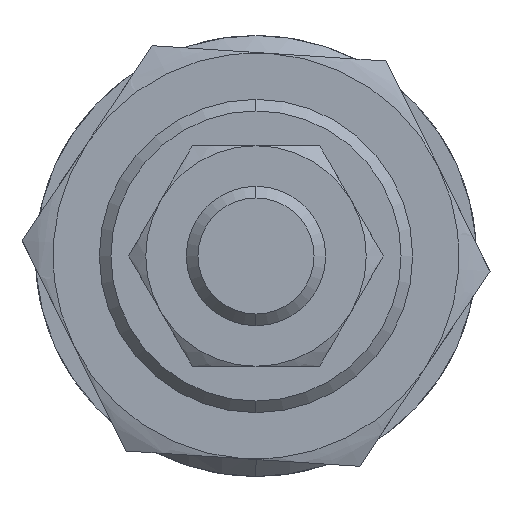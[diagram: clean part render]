
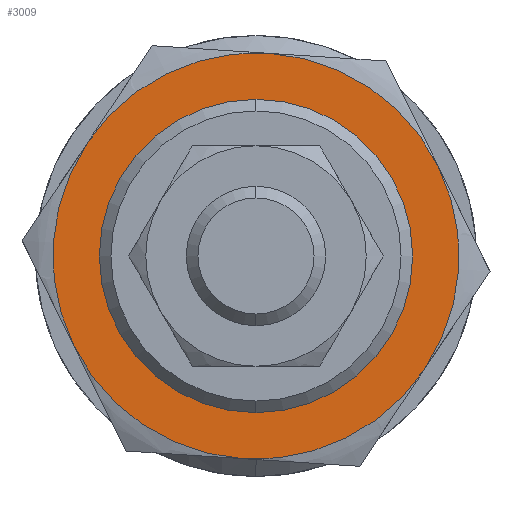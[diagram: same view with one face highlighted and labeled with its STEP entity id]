
A CAD part, left-side view. The second image highlights one B-rep face of the part: STEP entity #3009.
In plain terms, the highlighted planar face has unit normal (-1, 0, 0) as drawn and (0, 0, -1) by its records, which use the part's own axes.
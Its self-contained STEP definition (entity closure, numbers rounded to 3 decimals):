
#31 = DIRECTION ( 'NONE',  ( 1., 0., 0. ) ) ;
#107 = DIRECTION ( 'NONE',  ( 1., 0., 0. ) ) ;
#121 = CARTESIAN_POINT ( 'NONE',  ( -8.75, -15.155, -5. ) ) ;
#176 = CARTESIAN_POINT ( 'NONE',  ( 0., 0., -5. ) ) ;
#284 = PLANE ( 'NONE',  #1920 ) ;
#327 = VERTEX_POINT ( 'NONE', #565 ) ;
#352 = CARTESIAN_POINT ( 'NONE',  ( 8.75, -15.155, -5. ) ) ;
#477 = ORIENTED_EDGE ( 'NONE', *, *, #2859, .F. ) ;
#479 = VERTEX_POINT ( 'NONE', #352 ) ;
#485 = EDGE_CURVE ( 'NONE', #2669, #2563, #646, .T. ) ;
#527 = DIRECTION ( 'NONE',  ( 1., 0., 0. ) ) ;
#554 = CARTESIAN_POINT ( 'NONE',  ( 0., 0., -5. ) ) ;
#565 = CARTESIAN_POINT ( 'NONE',  ( 12.5, 0., -5. ) ) ;
#632 = CIRCLE ( 'NONE', #1095, 17.5 ) ;
#643 = AXIS2_PLACEMENT_3D ( 'NONE', #1770, #2531, #3029 ) ;
#646 = CIRCLE ( 'NONE', #1895, 17.5 ) ;
#657 = EDGE_LOOP ( 'NONE', ( #2610, #477, #1393, #3139, #2733, #724 ) ) ;
#716 = DIRECTION ( 'NONE',  ( 1., 0., 0. ) ) ;
#724 = ORIENTED_EDGE ( 'NONE', *, *, #485, .F. ) ;
#778 = EDGE_CURVE ( 'NONE', #1775, #479, #1769, .T. ) ;
#786 = DIRECTION ( 'NONE',  ( 1., 0., 0. ) ) ;
#792 = FACE_OUTER_BOUND ( 'NONE', #657, .T. ) ;
#852 = CIRCLE ( 'NONE', #643, 17.5 ) ;
#874 = CARTESIAN_POINT ( 'NONE',  ( 0., 0., -5. ) ) ;
#887 = EDGE_CURVE ( 'NONE', #3326, #327, #1123, .T. ) ;
#897 = EDGE_CURVE ( 'NONE', #2563, #2739, #1161, .T. ) ;
#998 = CARTESIAN_POINT ( 'NONE',  ( -12.5, 0., -5. ) ) ;
#1095 = AXIS2_PLACEMENT_3D ( 'NONE', #2074, #2323, #786 ) ;
#1123 = CIRCLE ( 'NONE', #1130, 12.5 ) ;
#1130 = AXIS2_PLACEMENT_3D ( 'NONE', #1228, #3020, #3267 ) ;
#1148 = FACE_BOUND ( 'NONE', #1309, .T. ) ;
#1161 = CIRCLE ( 'NONE', #3018, 17.5 ) ;
#1167 = CARTESIAN_POINT ( 'NONE',  ( 0., 0., -5. ) ) ;
#1216 = AXIS2_PLACEMENT_3D ( 'NONE', #554, #2079, #31 ) ;
#1228 = CARTESIAN_POINT ( 'NONE',  ( 0., 0., -5. ) ) ;
#1309 = EDGE_LOOP ( 'NONE', ( #2342, #1600 ) ) ;
#1386 = VERTEX_POINT ( 'NONE', #2892 ) ;
#1393 = ORIENTED_EDGE ( 'NONE', *, *, #778, .F. ) ;
#1572 = DIRECTION ( 'NONE',  ( 0., 0., 1. ) ) ;
#1600 = ORIENTED_EDGE ( 'NONE', *, *, #887, .T. ) ;
#1683 = DIRECTION ( 'NONE',  ( 1., 0., 0. ) ) ;
#1769 = CIRCLE ( 'NONE', #2408, 17.5 ) ;
#1770 = CARTESIAN_POINT ( 'NONE',  ( 0., 0., -5. ) ) ;
#1775 = VERTEX_POINT ( 'NONE', #121 ) ;
#1784 = EDGE_CURVE ( 'NONE', #1386, #2669, #852, .T. ) ;
#1845 = CIRCLE ( 'NONE', #2657, 12.5 ) ;
#1894 = DIRECTION ( 'NONE',  ( 0., 0., 1. ) ) ;
#1895 = AXIS2_PLACEMENT_3D ( 'NONE', #1167, #2970, #1683 ) ;
#1920 = AXIS2_PLACEMENT_3D ( 'NONE', #3091, #1572, #527 ) ;
#2074 = CARTESIAN_POINT ( 'NONE',  ( 0., 0., -5. ) ) ;
#2079 = DIRECTION ( 'NONE',  ( 0., 0., 1. ) ) ;
#2182 = CARTESIAN_POINT ( 'NONE',  ( -8.75, 15.155, -5. ) ) ;
#2236 = CARTESIAN_POINT ( 'NONE',  ( 8.75, 15.155, -5. ) ) ;
#2259 = DIRECTION ( 'NONE',  ( 0., 0., 1. ) ) ;
#2273 = CARTESIAN_POINT ( 'NONE',  ( -17.5, 0., -5. ) ) ;
#2323 = DIRECTION ( 'NONE',  ( 0., 0., 1. ) ) ;
#2342 = ORIENTED_EDGE ( 'NONE', *, *, #2811, .T. ) ;
#2408 = AXIS2_PLACEMENT_3D ( 'NONE', #874, #1894, #107 ) ;
#2511 = CIRCLE ( 'NONE', #1216, 17.5 ) ;
#2531 = DIRECTION ( 'NONE',  ( 0., 0., 1. ) ) ;
#2563 = VERTEX_POINT ( 'NONE', #2182 ) ;
#2610 = ORIENTED_EDGE ( 'NONE', *, *, #1784, .F. ) ;
#2657 = AXIS2_PLACEMENT_3D ( 'NONE', #2801, #2814, #3318 ) ;
#2669 = VERTEX_POINT ( 'NONE', #2236 ) ;
#2733 = ORIENTED_EDGE ( 'NONE', *, *, #897, .F. ) ;
#2739 = VERTEX_POINT ( 'NONE', #2273 ) ;
#2801 = CARTESIAN_POINT ( 'NONE',  ( 0., 0., -5. ) ) ;
#2811 = EDGE_CURVE ( 'NONE', #327, #3326, #1845, .T. ) ;
#2814 = DIRECTION ( 'NONE',  ( 0., 0., 1. ) ) ;
#2859 = EDGE_CURVE ( 'NONE', #479, #1386, #632, .T. ) ;
#2892 = CARTESIAN_POINT ( 'NONE',  ( 17.5, 0., -5. ) ) ;
#2912 = EDGE_CURVE ( 'NONE', #2739, #1775, #2511, .T. ) ;
#2970 = DIRECTION ( 'NONE',  ( 0., 0., 1. ) ) ;
#3009 = ADVANCED_FACE ( 'NONE', ( #1148, #792 ), #284, .F. ) ;
#3018 = AXIS2_PLACEMENT_3D ( 'NONE', #176, #2259, #716 ) ;
#3020 = DIRECTION ( 'NONE',  ( 0., 0., 1. ) ) ;
#3029 = DIRECTION ( 'NONE',  ( 1., 0., 0. ) ) ;
#3091 = CARTESIAN_POINT ( 'NONE',  ( 0., 0., -5. ) ) ;
#3139 = ORIENTED_EDGE ( 'NONE', *, *, #2912, .F. ) ;
#3267 = DIRECTION ( 'NONE',  ( 1., 0., 0. ) ) ;
#3318 = DIRECTION ( 'NONE',  ( 1., 0., 0. ) ) ;
#3326 = VERTEX_POINT ( 'NONE', #998 ) ;
